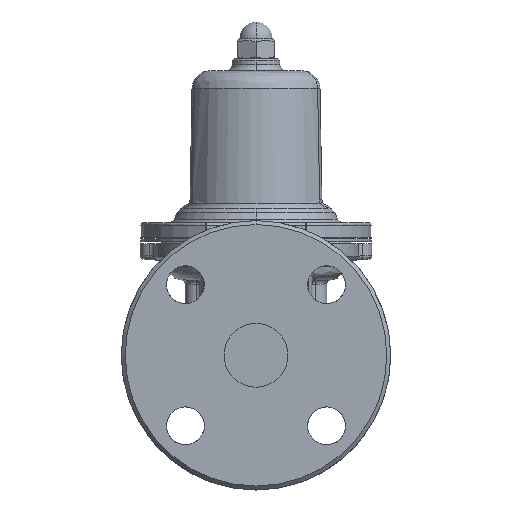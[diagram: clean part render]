
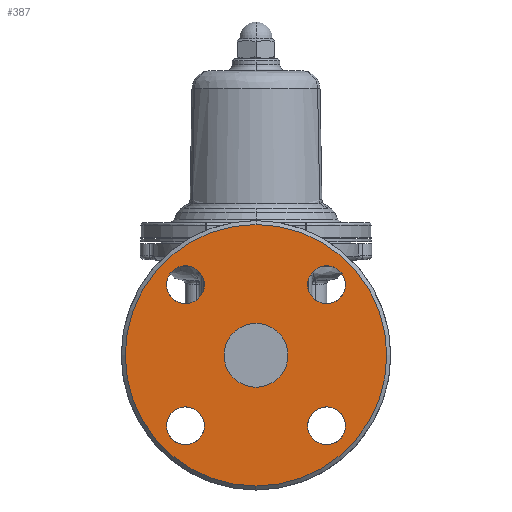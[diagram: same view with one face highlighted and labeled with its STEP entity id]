
A CAD part, left-side view. The second image highlights one B-rep face of the part: STEP entity #387.
In plain terms, the highlighted planar face has unit normal (-1, 0, 0).
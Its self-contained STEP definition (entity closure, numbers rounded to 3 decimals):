
#387=ADVANCED_FACE('',(#2347,#2348,#2349,#2350,#2351,#2352),#2346,.F.);
#2346=PLANE('',#8211);
#2347=FACE_OUTER_BOUND('',#8212,.T.);
#2348=FACE_BOUND('',#8213,.T.);
#2349=FACE_BOUND('',#8214,.T.);
#2350=FACE_BOUND('',#8215,.T.);
#2351=FACE_BOUND('',#8216,.T.);
#2352=FACE_BOUND('',#8217,.T.);
#8208=CARTESIAN_POINT('',(-109.,-123.504,75.532));
#8209=DIRECTION('',(1.,0.,0.));
#8210=DIRECTION('',(0.,0.,-1.));
#8211=AXIS2_PLACEMENT_3D('',#8208,#8209,#8210);
#8212=EDGE_LOOP('',(#15819,#15820));
#8213=EDGE_LOOP('',(#15821,#15822));
#8214=EDGE_LOOP('',(#15823,#15824));
#8215=EDGE_LOOP('',(#15825,#15826));
#8216=EDGE_LOOP('',(#15827,#15828));
#8217=EDGE_LOOP('',(#15829,#15830));
#15819=ORIENTED_EDGE('',*,*,#17828,.T.);
#15820=ORIENTED_EDGE('',*,*,#17829,.T.);
#15821=ORIENTED_EDGE('',*,*,#17830,.T.);
#15822=ORIENTED_EDGE('',*,*,#17831,.T.);
#15823=ORIENTED_EDGE('',*,*,#17832,.T.);
#15824=ORIENTED_EDGE('',*,*,#17833,.T.);
#15825=ORIENTED_EDGE('',*,*,#17834,.T.);
#15826=ORIENTED_EDGE('',*,*,#17835,.T.);
#15827=ORIENTED_EDGE('',*,*,#17836,.T.);
#15828=ORIENTED_EDGE('',*,*,#17837,.T.);
#15829=ORIENTED_EDGE('',*,*,#17838,.F.);
#15830=ORIENTED_EDGE('',*,*,#17839,.F.);
#17828=EDGE_CURVE('',#21385,#21386,#21387,.T.);
#17829=EDGE_CURVE('',#21386,#21385,#21393,.T.);
#17830=EDGE_CURVE('',#21399,#21400,#21401,.T.);
#17831=EDGE_CURVE('',#21400,#21399,#21407,.T.);
#17832=EDGE_CURVE('',#21413,#21414,#21415,.T.);
#17833=EDGE_CURVE('',#21414,#21413,#21421,.T.);
#17834=EDGE_CURVE('',#21427,#21428,#21429,.T.);
#17835=EDGE_CURVE('',#21428,#21427,#21435,.T.);
#17836=EDGE_CURVE('',#21441,#21442,#21443,.T.);
#17837=EDGE_CURVE('',#21442,#21441,#21449,.T.);
#17838=EDGE_CURVE('',#21455,#21456,#21457,.T.);
#17839=EDGE_CURVE('',#21456,#21455,#21463,.T.);
#21385=VERTEX_POINT('',#28731);
#21386=VERTEX_POINT('',#28732);
#21387=CIRCLE('',#28736,65.532);
#21393=CIRCLE('',#28740,65.532);
#21399=VERTEX_POINT('',#28741);
#21400=VERTEX_POINT('',#28742);
#21401=CIRCLE('',#28746,9.5);
#21407=CIRCLE('',#28750,9.5);
#21413=VERTEX_POINT('',#28751);
#21414=VERTEX_POINT('',#28752);
#21415=CIRCLE('',#28756,9.5);
#21421=CIRCLE('',#28760,9.5);
#21427=VERTEX_POINT('',#28761);
#21428=VERTEX_POINT('',#28762);
#21429=CIRCLE('',#28766,9.5);
#21435=CIRCLE('',#28770,9.5);
#21441=VERTEX_POINT('',#28771);
#21442=VERTEX_POINT('',#28772);
#21443=CIRCLE('',#28776,9.5);
#21449=CIRCLE('',#28780,9.5);
#21455=VERTEX_POINT('',#28781);
#21456=VERTEX_POINT('',#28782);
#21457=CIRCLE('',#28786,16.);
#21463=CIRCLE('',#28790,16.);
#28731=CARTESIAN_POINT('',(-109.,0.,65.532));
#28732=CARTESIAN_POINT('',(-109.,0.,-65.532));
#28733=CARTESIAN_POINT('',(-109.,0.,0.));
#28734=DIRECTION('',(-1.,0.,0.));
#28735=DIRECTION('',(0.,0.,1.));
#28736=AXIS2_PLACEMENT_3D('',#28733,#28734,#28735);
#28737=CARTESIAN_POINT('',(-109.,0.,0.));
#28738=DIRECTION('',(-1.,0.,0.));
#28739=DIRECTION('',(0.,0.,1.));
#28740=AXIS2_PLACEMENT_3D('',#28737,#28738,#28739);
#28741=CARTESIAN_POINT('',(-109.,-35.355,44.855));
#28742=CARTESIAN_POINT('',(-109.,-35.355,25.855));
#28743=CARTESIAN_POINT('',(-109.,-35.355,35.355));
#28744=DIRECTION('',(1.,0.,0.));
#28745=DIRECTION('',(0.,0.,1.));
#28746=AXIS2_PLACEMENT_3D('',#28743,#28744,#28745);
#28747=CARTESIAN_POINT('',(-109.,-35.355,35.355));
#28748=DIRECTION('',(1.,0.,0.));
#28749=DIRECTION('',(0.,0.,1.));
#28750=AXIS2_PLACEMENT_3D('',#28747,#28748,#28749);
#28751=CARTESIAN_POINT('',(-109.,-35.355,-25.855));
#28752=CARTESIAN_POINT('',(-109.,-35.355,-44.855));
#28753=CARTESIAN_POINT('',(-109.,-35.355,-35.355));
#28754=DIRECTION('',(1.,0.,0.));
#28755=DIRECTION('',(0.,0.,1.));
#28756=AXIS2_PLACEMENT_3D('',#28753,#28754,#28755);
#28757=CARTESIAN_POINT('',(-109.,-35.355,-35.355));
#28758=DIRECTION('',(1.,0.,0.));
#28759=DIRECTION('',(0.,0.,1.));
#28760=AXIS2_PLACEMENT_3D('',#28757,#28758,#28759);
#28761=CARTESIAN_POINT('',(-109.,35.355,-25.855));
#28762=CARTESIAN_POINT('',(-109.,35.355,-44.855));
#28763=CARTESIAN_POINT('',(-109.,35.355,-35.355));
#28764=DIRECTION('',(1.,0.,0.));
#28765=DIRECTION('',(0.,0.,1.));
#28766=AXIS2_PLACEMENT_3D('',#28763,#28764,#28765);
#28767=CARTESIAN_POINT('',(-109.,35.355,-35.355));
#28768=DIRECTION('',(1.,0.,0.));
#28769=DIRECTION('',(0.,0.,1.));
#28770=AXIS2_PLACEMENT_3D('',#28767,#28768,#28769);
#28771=CARTESIAN_POINT('',(-109.,35.355,44.855));
#28772=CARTESIAN_POINT('',(-109.,35.355,25.855));
#28773=CARTESIAN_POINT('',(-109.,35.355,35.355));
#28774=DIRECTION('',(1.,0.,0.));
#28775=DIRECTION('',(0.,0.,1.));
#28776=AXIS2_PLACEMENT_3D('',#28773,#28774,#28775);
#28777=CARTESIAN_POINT('',(-109.,35.355,35.355));
#28778=DIRECTION('',(1.,0.,0.));
#28779=DIRECTION('',(0.,0.,1.));
#28780=AXIS2_PLACEMENT_3D('',#28777,#28778,#28779);
#28781=CARTESIAN_POINT('',(-109.,0.,16.));
#28782=CARTESIAN_POINT('',(-109.,0.,-16.));
#28783=CARTESIAN_POINT('',(-109.,0.,0.));
#28784=DIRECTION('',(-1.,0.,0.));
#28785=DIRECTION('',(0.,0.,-1.));
#28786=AXIS2_PLACEMENT_3D('',#28783,#28784,#28785);
#28787=CARTESIAN_POINT('',(-109.,0.,0.));
#28788=DIRECTION('',(-1.,0.,0.));
#28789=DIRECTION('',(0.,0.,-1.));
#28790=AXIS2_PLACEMENT_3D('',#28787,#28788,#28789);
